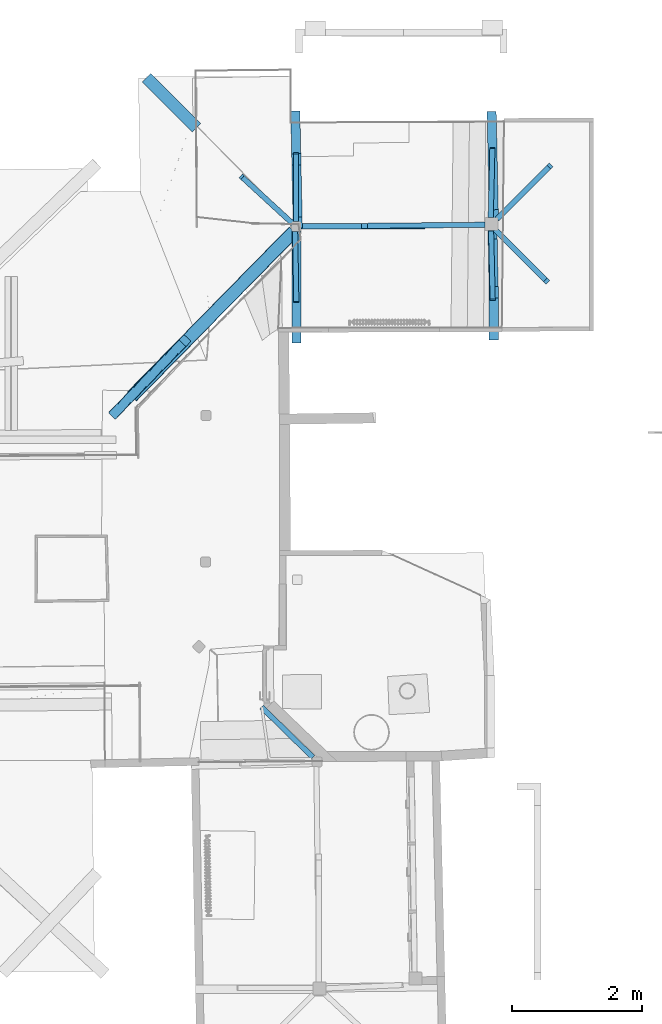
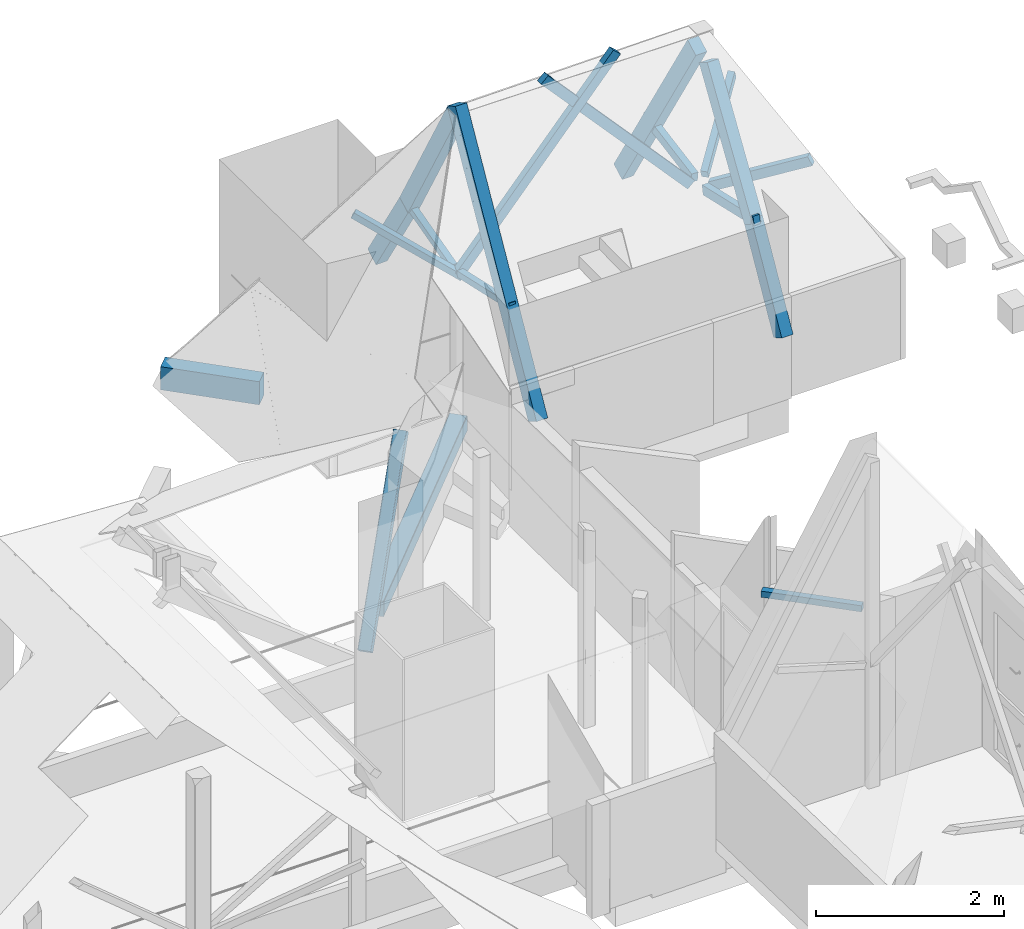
# One storey, part 5 of 39: 19 beams.
"""IFC2X3 building model written with IfcOpenShell, lengths in centimetres."""

from ifc_helpers import new_model, entity, si_unit, converted_unit, direction, frame, origin, origin_with_axes, origin_2d_with_axis, place, context, subcontext, project, spatial, rectangle, rounded_rectangle, extrude, source, transform, mapped, material, type_object, element, save


model = new_model("IFC2X3")

# Units and contexts
model_context = context("Model", 3, precision=0.0001, world=origin(), true_north=direction((0.225632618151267, 0.974212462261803, 0.0)))
body_context = subcontext(model_context, "Body", "Model", "MODEL_VIEW")
ifc_project = project(units=[si_unit("LENGTHUNIT", "METRE", prefix="CENTI"), si_unit("AREAUNIT", "SQUARE_METRE", prefix="CENTI"), si_unit("VOLUMEUNIT", "CUBIC_METRE", prefix="CENTI"), converted_unit("PLANEANGLEUNIT", "DEGREE", entity("IfcRatioMeasure", 0.0174532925), si_unit("PLANEANGLEUNIT", "RADIAN"), dimensions=[0, 0, 0, 0, 0, 0, 0])], contexts=[model_context])

# Site, building, storey
site_placement = place(None, origin_with_axes())
site = spatial("IfcSite", under=ifc_project, at=site_placement, Name="Default Site", CompositionType="ELEMENT")
building_placement = place(site_placement, origin_with_axes())
building = spatial("IfcBuilding", under=site, at=building_placement, Name="Default Building", CompositionType="ELEMENT")
storey_placement = place(building_placement, frame((0.0, 0.0, 1088.91037418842), z_axis=(0.0, 0.0, 1.0), x_axis=(1.0, 0.0, 0.0)))
storey = spatial("IfcBuildingStorey", under=building, at=storey_placement, Name="Mezzanine", CompositionType="ELEMENT", Elevation=1088.91037418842)

# Beams
ifc_material = material(Name="Eyong")
beam_type_1 = type_object("IfcBeamType", Name="140x200", PredefinedType="NOTDEFINED", material=ifc_material)
shared_shape_1 = source(origin_with_axes(), body_context, "Body", "SweptSolid", [
    extrude(rectangle(XDim=14.0, YDim=20.0, at=origin_2d_with_axis()), origin_with_axes(), (0.0, 0.0, 1.0), 100.0),
])
beam_1_placement = place(storey_placement, frame((527.861497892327, 483.961680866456, 431.057749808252), z_axis=(0.0102831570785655, -0.485034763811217, 0.874434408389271), x_axis=(0.99977533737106, 0.0211961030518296, 0.0)))
element("IfcBeam", 1, at=beam_1_placement, inside=storey, type_object=beam_type_1, material=ifc_material, Name="Poutre 1809122", ObjectType="beam", context=body_context, shape_type="MappedRepresentation", body=[
    mapped(shared_shape_1, transform((6.99999999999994, -10.0000000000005, -1.77635683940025e-13), x_axis=(1.0, 0.0, 0.0), y_axis=(8.41590265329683e-19, 1.0, 0.0), z_axis=(2.17821579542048e-19, 0.0, -1.0), scale=1.0, scale2=1.0, scale3=2.0, uniform=False)),
])
beam_2_placement = place(storey_placement, frame((829.507574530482, 356.512846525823, 250.729365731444), z_axis=(0.00950045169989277, -0.519316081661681, -0.854529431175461), x_axis=(0.999832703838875, 0.0182910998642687, -1.27217038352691e-16)))
element("IfcBeam", 2, at=beam_2_placement, inside=storey, type_object=beam_type_1, material=ifc_material, Name="Poutre 1812017", ObjectType="beam", context=body_context, shape_type="MappedRepresentation", body=[
    mapped(shared_shape_1, transform((7.00000000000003, -9.99999999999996, 3.5527136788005e-13), x_axis=(1.0, -4.2254744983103e-18, 4.07968636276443e-19), y_axis=(-3.3244539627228e-18, 1.0, 0.0), z_axis=(-2.74825741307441e-19, 1.2335811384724e-16, -1.0), scale=1.0, scale2=1.0, scale3=1.8, uniform=False)),
])
beam_3_placement = place(storey_placement, frame((525.804866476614, 580.968633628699, 256.170868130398), z_axis=(0.011105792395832, -0.523836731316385, 0.851746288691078), x_axis=(0.99977533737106, 0.0211961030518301, 0.0)))
element("IfcBeam", 3, at=beam_3_placement, inside=storey, type_object=beam_type_1, material=ifc_material, Name="Poutre 1805559", ObjectType="beam", context=body_context, shape_type="MappedRepresentation", body=[
    mapped(shared_shape_1, transform((7.00000000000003, -10.0000000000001, -1.77635683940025e-13), x_axis=(1.0, -2.56053087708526e-18, 6.68171471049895e-18), y_axis=(9.08916074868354e-19, 1.0, -5.55111512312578e-17), z_axis=(-4.25309753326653e-18, -8.88177040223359e-17, -1.0), scale=1.0, scale2=1.0, scale3=1.25000194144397, uniform=False)),
])
beam_4_placement = place(storey_placement, frame((829.450035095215, 294.48, 140.702416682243), z_axis=(-3.01521876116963e-17, -0.492422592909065, -0.870356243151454), x_axis=(1.0, 1.51943457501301e-16, -1.20608750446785e-16)))
element("IfcBeam", 4, at=beam_4_placement, inside=storey, type_object=beam_type_1, material=ifc_material, Name="Poutre 1815186", ObjectType="beam", context=body_context, shape_type="MappedRepresentation", body=[
    mapped(shared_shape_1, transform((6.99999999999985, -10.0000000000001, 0.0), x_axis=(1.0, -1.23259516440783e-32, -1.23259516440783e-32), y_axis=(1.23259516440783e-32, 1.0, 0.0), z_axis=(0.0, 0.0, -1.0), scale=1.0, scale2=1.0, scale3=1.32365981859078, uniform=False)),
])
beam_5_placement = place(storey_placement, frame((829.380954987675, 494.881780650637, 406.400089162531), z_axis=(0.0109136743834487, -0.514774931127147, 0.857255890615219), x_axis=(0.99977533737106, 0.0211961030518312, 0.0)))
element("IfcBeam", 5, at=beam_5_placement, inside=storey, type_object=beam_type_1, material=ifc_material, Name="Poutre 1810550", ObjectType="beam", context=body_context, shape_type="MappedRepresentation", body=[
    mapped(shared_shape_1, transform((7.00000000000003, -10.0000000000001, 1.77635683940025e-13), x_axis=(1.0, 2.57625412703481e-18, -1.48710191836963e-18), y_axis=(-8.93192824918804e-19, 1.0, 5.55111512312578e-17), z_axis=(1.48710191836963e-18, 7.56260650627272e-17, -1.0), scale=1.0, scale2=1.0, scale3=2.9360856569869, uniform=False)),
])
beam_6_placement = place(storey_placement, frame((526.150023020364, 290.599992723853, 140.702416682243), z_axis=(-3.01521876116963e-17, -0.492422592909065, -0.870356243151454), x_axis=(1.0, 1.51943457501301e-16, -1.20608750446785e-16)))
element("IfcBeam", 6, at=beam_6_placement, inside=storey, type_object=beam_type_1, material=ifc_material, Name="Poutre 1819587", ObjectType="beam", context=body_context, shape_type="MappedRepresentation", body=[
    mapped(shared_shape_1, transform((7.00000000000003, -10.0000000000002, 1.77635683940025e-13), x_axis=(1.0, -1.23259516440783e-32, -1.23259516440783e-32), y_axis=(1.23259516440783e-32, 1.0, 0.0), z_axis=(1.40868018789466e-32, 0.0, -1.0), scale=1.0, scale2=1.0, scale3=3.5, uniform=False)),
])
beam_type_2 = type_object("IfcBeamType", Name="150.0x150.0x25.0", PredefinedType="NOTDEFINED", material=ifc_material)
shared_shape_2 = source(origin_with_axes(), body_context, "Body", "SweptSolid", [
    extrude(rounded_rectangle(XDim=15.0, YDim=15.0, RoundingRadius=2.5, at=origin_2d_with_axis()), origin_with_axes(), (0.0, 0.0, 1.0), 100.0),
])
beam_7_placement = place(storey_placement, frame((255.966288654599, 173.971070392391, 7.43521161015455), z_axis=(-0.454685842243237, -0.469067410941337, -0.757123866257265), x_axis=(0.718028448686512, -0.696013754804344, -1.60005332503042e-16)))
element("IfcBeam", 7, at=beam_7_placement, inside=storey, type_object=beam_type_2, material=ifc_material, Name="Poutre 1780034", ObjectType="beam", context=body_context, shape_type="MappedRepresentation", body=[
    mapped(shared_shape_2, transform((-7.49999999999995, -5.00000000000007, 1.77635683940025e-13), x_axis=(1.0, 2.14780758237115e-17, -5.39293351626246e-17), y_axis=(-3.40330754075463e-17, 1.0, 0.0), z_axis=(1.10904362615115e-16, 0.0, -1.0), scale=1.0, scale2=1.0, scale3=2.38740840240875, uniform=False)),
])
beam_type_3 = type_object("IfcBeamType", Name="80x80", PredefinedType="NOTDEFINED", material=ifc_material)
shared_shape_3 = source(origin_with_axes(), body_context, "Body", "SweptSolid", [
    extrude(rectangle(XDim=8.0, YDim=8.0, at=origin_2d_with_axis()), origin_with_axes(), (0.0, 0.0, 1.0), 100.0),
])
beam_8_placement = place(storey_placement, frame((532.409399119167, 476.805511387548, 229.702416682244), z_axis=(-5.91213102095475e-17, -0.965524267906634, -0.260313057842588), x_axis=(1.0, -6.12323399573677e-17, 0.0)))
element("IfcBeam", 8, at=beam_8_placement, inside=storey, type_object=beam_type_3, material=ifc_material, Name="Poutre 1805044", ObjectType="beam", context=body_context, shape_type="MappedRepresentation", body=[
    mapped(shared_shape_3, transform((-8.88178419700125e-14, -4.00000000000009, 0.0), x_axis=(1.0, 3.08148791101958e-33, 1.23259516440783e-32), y_axis=(3.08148791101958e-33, 1.0, 0.0), z_axis=(0.0, 5.16081340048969e-17, -1.0), scale=1.0, scale2=1.0, scale3=1.07562794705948, uniform=False)),
])
beam_9_placement = place(storey_placement, frame((538.079760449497, 463.911389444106, 223.444396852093), z_axis=(0.650335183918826, -0.597724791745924, -0.468816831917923), x_axis=(0.676698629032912, 0.736260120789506, -1.88589403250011e-16)))
element("IfcBeam", 9, at=beam_9_placement, inside=storey, type_object=beam_type_3, material=ifc_material, Name="Poutre 1805055", ObjectType="beam", context=body_context, shape_type="MappedRepresentation", body=[
    mapped(shared_shape_3, transform((0.0, -3.99999999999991, 0.0), x_axis=(1.0, -3.28367293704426e-17, -7.54474864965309e-17), y_axis=(-1.15595600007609e-17, 1.0, 0.0), z_axis=(1.81654822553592e-16, 8.22387425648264e-17, -1.0), scale=1.0, scale2=1.0, scale3=1.35, uniform=False)),
])
beam_10_placement = place(storey_placement, frame((532.924568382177, 354.092899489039, 254.837890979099), z_axis=(0.0167783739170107, -0.979392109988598, 0.201269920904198), x_axis=(0.999853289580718, 0.0171289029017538, -2.39917080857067e-16)))
element("IfcBeam", 10, at=beam_10_placement, inside=storey, type_object=beam_type_3, material=ifc_material, Name="Poutre 1791735", ObjectType="beam", context=body_context, shape_type="MappedRepresentation", body=[
    mapped(shared_shape_3, transform((0.0, -4.00000000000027, 4.44089209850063e-14), x_axis=(1.0, -1.16369908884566e-18, 7.24148767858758e-18), y_axis=(-3.14087199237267e-19, 1.0, -2.77555756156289e-17), z_axis=(-5.5338507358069e-18, 2.52371484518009e-17, -1.0), scale=1.0, scale2=1.0, scale3=1.09979048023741, uniform=False)),
])
beam_11_placement = place(storey_placement, frame((558.341354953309, -346.664189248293, 279.702416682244), z_axis=(0.714354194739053, -0.699784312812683, 0.0), x_axis=(0.699784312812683, 0.714354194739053, 0.0)))
element("IfcBeam", 11, at=beam_11_placement, inside=storey, type_object=beam_type_3, material=ifc_material, Name="Poutre 1879254", ObjectType="beam", context=body_context, shape_type="MappedRepresentation", body=[
    mapped(shared_shape_3, transform((0.0, -4.00000000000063, 0.0), x_axis=(1.0, 0.0, 0.0), y_axis=(0.0, 1.0, 0.0), z_axis=(0.0, 0.0, -1.0), scale=1.0, scale2=1.0, scale3=1.10219566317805, uniform=False)),
])
beam_type_4 = type_object("IfcBeamType", Name="80x120", PredefinedType="NOTDEFINED", material=ifc_material)
shared_shape_4 = source(origin_with_axes(), body_context, "Body", "SweptSolid", [
    extrude(rectangle(XDim=8.0, YDim=12.0, at=origin_2d_with_axis()), origin_with_axes(), (0.0, 0.0, 1.0), 100.0),
])
beam_12_placement = place(storey_placement, frame((831.750403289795, 482.879808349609, 239.702416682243), z_axis=(-0.0239997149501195, -0.990284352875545, -0.136970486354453), x_axis=(0.999706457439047, -0.0242280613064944, -2.42620932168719e-16)))
element("IfcBeam", 12, at=beam_12_placement, inside=storey, type_object=beam_type_4, material=ifc_material, Name="Poutre 1781085", ObjectType="beam", context=body_context, shape_type="MappedRepresentation", body=[
    mapped(shared_shape_4, transform((-3.5527136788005e-13, -6.00000000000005, 8.88178419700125e-14), x_axis=(1.0, -7.42742359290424e-19, -1.3702394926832e-18), y_axis=(-7.42742359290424e-19, 1.0, 0.0), z_axis=(2.18221611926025e-18, -2.5822869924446e-17, -1.0), scale=1.0, scale2=1.0, scale3=1.07484472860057, uniform=False)),
])
beam_13_placement = place(storey_placement, frame((834.78294921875, 357.889672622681, 259.702416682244), z_axis=(0.023280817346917, -0.979241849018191, 0.20135392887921), x_axis=(0.999717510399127, 0.0237676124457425, -2.39912852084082e-16)))
element("IfcBeam", 13, at=beam_13_placement, inside=storey, type_object=beam_type_4, material=ifc_material, Name="Poutre 1781082", ObjectType="beam", context=body_context, shape_type="MappedRepresentation", body=[
    mapped(shared_shape_4, transform((0.0, -6.00000000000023, -7.7715611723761e-14), x_axis=(1.0, 5.48517805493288e-19, 7.48331046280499e-18), y_axis=(1.39811471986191e-18, 1.0, -2.77555756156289e-17), z_axis=(-1.38823813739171e-17, -5.19878530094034e-17, -1.0), scale=1.0, scale2=1.0, scale3=1.06777156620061, uniform=False)),
])
beam_14_placement = place(storey_placement, frame((915.897065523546, 387.112875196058, 292.225108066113), z_axis=(0.637597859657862, -0.637597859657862, 0.432363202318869), x_axis=(0.707106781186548, 0.707106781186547, -2.77555756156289e-17)))
element("IfcBeam", 14, at=beam_14_placement, inside=storey, type_object=beam_type_4, material=ifc_material, Name="Poutre 1785473", ObjectType="beam", context=body_context, shape_type="MappedRepresentation", body=[
    mapped(shared_shape_4, transform((0.0, -5.99999999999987, -1.77635683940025e-13), x_axis=(1.0, -2.77555756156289e-17, 5.55111512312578e-17), y_axis=(-2.77555756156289e-17, 1.0, 5.55111512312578e-17), z_axis=(-9.13927998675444e-17, 0.0, -1.0), scale=1.0, scale2=1.0, scale3=1.21478171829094, uniform=False)),
])
beam_15_placement = place(storey_placement, frame((841.504602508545, 480.884622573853, 239.702416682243), z_axis=(-0.636766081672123, -0.636766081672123, -0.434807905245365), x_axis=(0.707106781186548, -0.707106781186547, -2.20564577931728e-16)))
element("IfcBeam", 15, at=beam_15_placement, inside=storey, type_object=beam_type_4, material=ifc_material, Name="Poutre 1781088", ObjectType="beam", context=body_context, shape_type="MappedRepresentation", body=[
    mapped(shared_shape_4, transform((4.44089209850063e-14, -6.00000000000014, 1.77635683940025e-13), x_axis=(1.0, 3.31324205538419e-17, 1.44820124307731e-16), y_axis=(8.13787998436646e-18, 1.0, 0.0), z_axis=(-6.80650697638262e-17, 0.0, -1.0), scale=1.0, scale2=1.0, scale3=1.24992180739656, uniform=False)),
])
beam_16_placement = place(storey_placement, frame((528.39438036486, 469.700906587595, 225.868002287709), z_axis=(-0.656117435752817, -9.77691167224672e-09, -0.754658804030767), x_axis=(3.65586870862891e-09, -1.0, 9.77691167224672e-09)))
element("IfcBeam", 16, at=beam_16_placement, inside=storey, type_object=beam_type_4, material=ifc_material, Name="Poutre 1804513", ObjectType="beam", context=body_context, shape_type="MappedRepresentation", body=[
    mapped(shared_shape_4, transform((0.0, -6.00000000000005, 1.77635683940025e-13), x_axis=(1.0, -8.27180612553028e-25, 2.48154183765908e-24), y_axis=(0.0, 1.0, -5.55111512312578e-17), z_axis=(-1.12343677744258e-24, -3.01570263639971e-16, -1.0), scale=1.0, scale2=1.0, scale3=2.94517904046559, uniform=False)),
])
beam_17_placement = place(storey_placement, frame((642.04, 470.3, 442.605661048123), z_axis=(-0.670231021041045, -0.00629542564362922, 0.742125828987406), x_axis=(0.00939250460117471, -0.999955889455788, 8.67361737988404e-19)))
element("IfcBeam", 17, at=beam_17_placement, inside=storey, type_object=beam_type_4, material=ifc_material, Name="Poutre 1792385", ObjectType="beam", context=body_context, shape_type="MappedRepresentation", body=[
    mapped(shared_shape_4, transform((0.0, -6.00000000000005, 8.88178419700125e-14), x_axis=(1.0, -2.60208521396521e-18, -8.67361737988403e-19), y_axis=(-2.86003350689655e-19, 1.0, 5.55111512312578e-17), z_axis=(1.92589379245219e-18, 0.0, -1.0), scale=1.0, scale2=1.0, scale3=2.70039441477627, uniform=False)),
])
beam_type_5 = type_object("IfcBeamType", Name="187x300", PredefinedType="NOTDEFINED", material=ifc_material)
shared_shape_5 = source(origin_with_axes(), body_context, "Body", "SweptSolid", [
    extrude(rectangle(XDim=18.7, YDim=30.0, at=origin_2d_with_axis()), origin_with_axes(), (0.0, 0.0, 1.0), 100.0),
])
beam_18_placement = place(storey_placement, frame((386.332611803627, 627.723494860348, 49.7024166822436), z_axis=(0.707691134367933, -0.706521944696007, 0.0), x_axis=(0.706521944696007, 0.707691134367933, -2.44929359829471e-16)))
element("IfcBeam", 18, at=beam_18_placement, inside=storey, type_object=beam_type_5, material=ifc_material, Name="Poutre 1717774", ObjectType="beam", context=body_context, shape_type="MappedRepresentation", body=[
    mapped(shared_shape_5, transform((-9.35000000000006, -15.0000000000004, 8.88178419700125e-14), x_axis=(1.0, 4.93038065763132e-32, 0.0), y_axis=(4.93038065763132e-32, 1.0, 0.0), z_axis=(-1.02118031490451e-16, -2.26747579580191e-32, -1.0), scale=1.0, scale2=1.0, scale3=1.08719587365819, uniform=False)),
])
beam_type_6 = type_object("IfcBeamType", Name="200,00x200,00x10,00", PredefinedType="NOTDEFINED", material=ifc_material)
shared_shape_6 = source(origin_with_axes(), body_context, "Body", "SweptSolid", [
    extrude(rounded_rectangle(XDim=20.0, YDim=20.0, RoundingRadius=1.0, at=origin_2d_with_axis()), origin_with_axes(), (0.0, 0.0, 1.0), 100.0),
])
beam_19_placement = place(storey_placement, frame((272.794542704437, 214.840396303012, 44.7024166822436), z_axis=(-0.700397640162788, -0.713752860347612, 0.0), x_axis=(0.713752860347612, -0.700397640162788, 0.0)))
element("IfcBeam", 19, at=beam_19_placement, inside=storey, type_object=beam_type_6, material=ifc_material, Name="Poutre 1741944", ObjectType="beam", context=body_context, shape_type="MappedRepresentation", body=[
    mapped(shared_shape_6, transform((9.99999999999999, -9.00000000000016, 0.0), x_axis=(1.0, 0.0, 0.0), y_axis=(0.0, 1.0, 0.0), z_axis=(6.24479845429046e-17, 0.0, -1.0), scale=1.0, scale2=1.0, scale3=3.55567287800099, uniform=False)),
])

save(model, "model.ifc")
